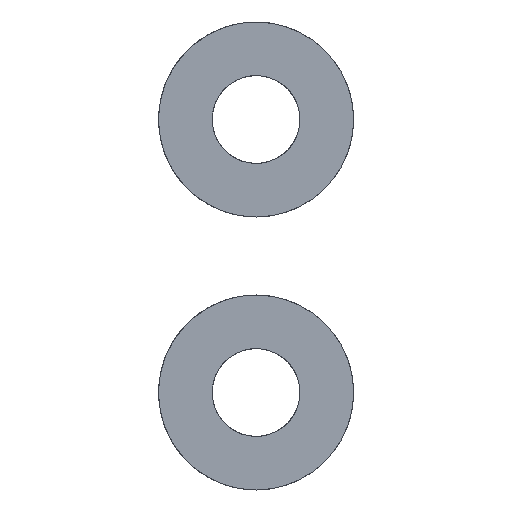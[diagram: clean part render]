
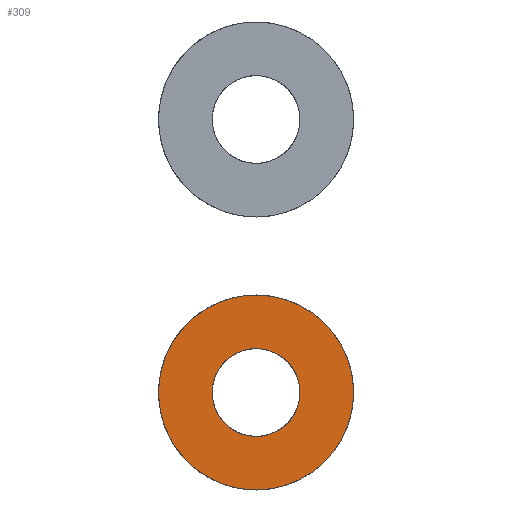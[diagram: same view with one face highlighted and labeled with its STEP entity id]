
A CAD part, left-side view. The second image highlights one B-rep face of the part: STEP entity #309.
In plain terms, the highlighted planar face has unit normal (-1, 0, 0).
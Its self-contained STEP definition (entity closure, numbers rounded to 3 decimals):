
#309=ADVANCED_FACE('',(#333,#326),#782,.T.);
#326=FACE_BOUND('',#353,.T.);
#333=FACE_OUTER_BOUND('',#352,.T.);
#352=EDGE_LOOP('',(#379));
#353=EDGE_LOOP('',(#380));
#379=ORIENTED_EDGE('',*,*,#619,.T.);
#380=ORIENTED_EDGE('',*,*,#620,.T.);
#439=PCURVE('',#782,#499);
#440=PCURVE('',#782,#500);
#499=DEFINITIONAL_REPRESENTATION('',(#680),#1621);
#500=DEFINITIONAL_REPRESENTATION('',(#682),#1621);
#559=SURFACE_CURVE('',#679,(#439),.PCURVE_S1.);
#560=SURFACE_CURVE('',#681,(#440),.PCURVE_S1.);
#619=EDGE_CURVE('',#727,#727,#559,.T.);
#620=EDGE_CURVE('',#728,#728,#560,.T.);
#679=(
BOUNDED_CURVE()
B_SPLINE_CURVE(2,(#942,#943,#944,#945,#946,#947,#948,#949,#950),
 .UNSPECIFIED.,.T.,.F.)
B_SPLINE_CURVE_WITH_KNOTS((3,2,2,2,3),(3.142,4.712,
6.283,7.854,9.425),.UNSPECIFIED.)
CURVE()
GEOMETRIC_REPRESENTATION_ITEM()
RATIONAL_B_SPLINE_CURVE((1.,0.707,1.,0.707,1.,0.707,
1.,0.707,1.))
REPRESENTATION_ITEM('')
);
#680=(
BOUNDED_CURVE()
B_SPLINE_CURVE(2,(#951,#952,#953,#954,#955,#956,#957,#958,#959),
 .UNSPECIFIED.,.T.,.F.)
B_SPLINE_CURVE_WITH_KNOTS((3,2,2,2,3),(3.142,4.712,
6.283,7.854,9.425),.UNSPECIFIED.)
CURVE()
GEOMETRIC_REPRESENTATION_ITEM()
RATIONAL_B_SPLINE_CURVE((1.,0.707,1.,0.707,1.,0.707,
1.,0.707,1.))
REPRESENTATION_ITEM('')
);
#681=(
BOUNDED_CURVE()
B_SPLINE_CURVE(2,(#960,#961,#962,#963,#964,#965,#966,#967,#968),
 .UNSPECIFIED.,.T.,.F.)
B_SPLINE_CURVE_WITH_KNOTS((3,2,2,2,3),(0.,1.571,3.142,
4.712,6.283),.UNSPECIFIED.)
CURVE()
GEOMETRIC_REPRESENTATION_ITEM()
RATIONAL_B_SPLINE_CURVE((1.,0.707,1.,0.707,1.,0.707,
1.,0.707,1.))
REPRESENTATION_ITEM('')
);
#682=(
BOUNDED_CURVE()
B_SPLINE_CURVE(2,(#969,#970,#971,#972,#973,#974,#975,#976,#977),
 .UNSPECIFIED.,.T.,.F.)
B_SPLINE_CURVE_WITH_KNOTS((3,2,2,2,3),(0.,1.571,3.142,
4.712,6.283),.UNSPECIFIED.)
CURVE()
GEOMETRIC_REPRESENTATION_ITEM()
RATIONAL_B_SPLINE_CURVE((1.,0.707,1.,0.707,1.,0.707,
1.,0.707,1.))
REPRESENTATION_ITEM('')
);
#727=VERTEX_POINT('',#940);
#728=VERTEX_POINT('',#941);
#782=PLANE('',#830);
#830=AXIS2_PLACEMENT_3D('',#939,#843,$);
#843=DIRECTION('',(-1.,0.,0.));
#939=CARTESIAN_POINT('',(-1.5,5.,-5.));
#940=CARTESIAN_POINT('',(-1.5,-5.,0.));
#941=CARTESIAN_POINT('',(-1.5,2.25,0.));
#942=CARTESIAN_POINT('',(-1.5,-5.,0.));
#943=CARTESIAN_POINT('',(-1.5,-5.,5.));
#944=CARTESIAN_POINT('',(-1.5,0.,5.));
#945=CARTESIAN_POINT('',(-1.5,5.,5.));
#946=CARTESIAN_POINT('',(-1.5,5.,0.));
#947=CARTESIAN_POINT('',(-1.5,5.,-5.));
#948=CARTESIAN_POINT('',(-1.5,0.,-5.));
#949=CARTESIAN_POINT('',(-1.5,-5.,-5.));
#950=CARTESIAN_POINT('',(-1.5,-5.,0.));
#951=CARTESIAN_POINT('',(1.,0.5));
#952=CARTESIAN_POINT('',(1.,1.));
#953=CARTESIAN_POINT('',(0.5,1.));
#954=CARTESIAN_POINT('',(0.,1.));
#955=CARTESIAN_POINT('',(0.,0.5));
#956=CARTESIAN_POINT('',(0.,0.));
#957=CARTESIAN_POINT('',(0.5,0.));
#958=CARTESIAN_POINT('',(1.,0.));
#959=CARTESIAN_POINT('',(1.,0.5));
#960=CARTESIAN_POINT('',(-1.5,2.25,0.));
#961=CARTESIAN_POINT('',(-1.5,2.25,2.25));
#962=CARTESIAN_POINT('',(-1.5,0.,2.25));
#963=CARTESIAN_POINT('',(-1.5,-2.25,2.25));
#964=CARTESIAN_POINT('',(-1.5,-2.25,0.));
#965=CARTESIAN_POINT('',(-1.5,-2.25,-2.25));
#966=CARTESIAN_POINT('',(-1.5,0.,-2.25));
#967=CARTESIAN_POINT('',(-1.5,2.25,-2.25));
#968=CARTESIAN_POINT('',(-1.5,2.25,0.));
#969=CARTESIAN_POINT('',(0.275,0.5));
#970=CARTESIAN_POINT('',(0.275,0.725));
#971=CARTESIAN_POINT('',(0.5,0.725));
#972=CARTESIAN_POINT('',(0.725,0.725));
#973=CARTESIAN_POINT('',(0.725,0.5));
#974=CARTESIAN_POINT('',(0.725,0.275));
#975=CARTESIAN_POINT('',(0.5,0.275));
#976=CARTESIAN_POINT('',(0.275,0.275));
#977=CARTESIAN_POINT('',(0.275,0.5));
#1621=(
GEOMETRIC_REPRESENTATION_CONTEXT(2)
PARAMETRIC_REPRESENTATION_CONTEXT()
REPRESENTATION_CONTEXT('pspace','')
);
